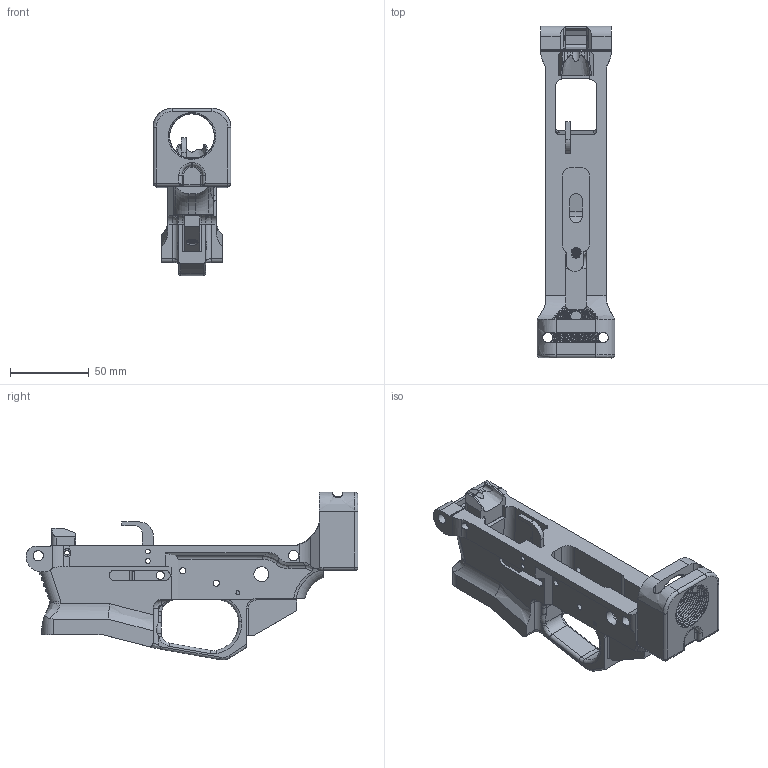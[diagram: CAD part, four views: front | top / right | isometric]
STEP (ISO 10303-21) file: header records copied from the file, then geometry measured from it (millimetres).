
FILE_DESCRIPTION(/* description */ (''),/* implementation_level */ '2;1');
FILE_NAME(/* name */ 'PCC 1.0/AR-9 MP5 - Final.step',/* time_stamp */ '2022-03-29T21:33:51-04:00',/* author */ (''),/* organization */ (''),/* preprocessor_version */ 'ST-DEVELOPER v18.1',/* originating_system */ 'Autodesk Translation Framework v10.13.0.1454',/* authorisation */ '');
FILE_SCHEMA (('AUTOMOTIVE_DESIGN { 1 0 10303 214 3 1 1 }'));
Products named in the file (4): AR-9 MP5 - Final; Frame (6) (1); Feed Ramp (2); Ejector-steel (4)
Assembly tree (3 placements, depth 2):
  AR-9 MP5 - Final
    Frame (6) (1)
    Feed Ramp (2)
    Ejector-steel (4)
Bounding box: 49.27 x 210.49 x 106.26 mm (x, y, z)
Volume: 200521.2 mm3; surface area: 67353 mm2
Topology: 3 solids, 3 shells, 655 faces, 1861 edges, 1198 vertices
Faces by surface type: cylinder 271, plane 211, bspline 137, torus 20, cone 14, sphere 2
Full cylindrical faces by diameter (mm): 3 x9, 3.175 x1, 3.962 x4, 5 x3, 5.172 x21, 5.182 x1, 6.35 x20, 6.5 x6, 6.75 x1, 7.938 x1, 9.525 x2, 28.47 x9, 30.043 x9
Entity records: 42311 total; most frequent: CARTESIAN_POINT 26494, ORIENTED_EDGE 3704, DIRECTION 2658, EDGE_CURVE 1852, VERTEX_POINT 1198, AXIS2_PLACEMENT_3D 927, LINE 804, VECTOR 804
